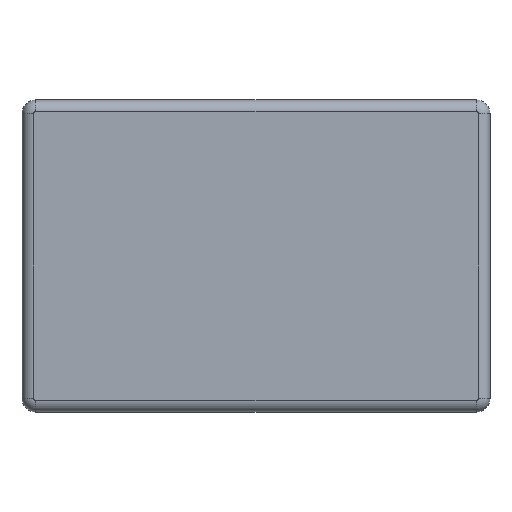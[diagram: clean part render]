
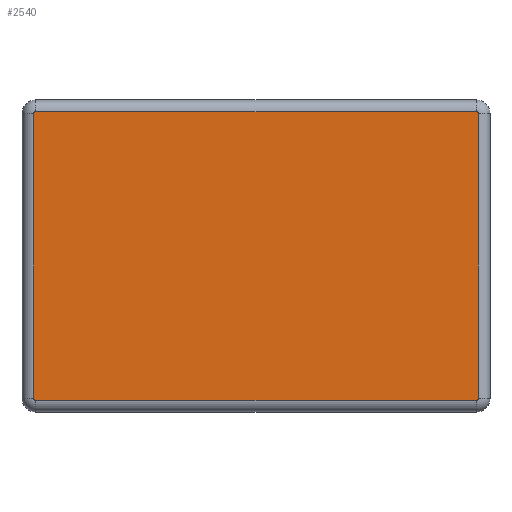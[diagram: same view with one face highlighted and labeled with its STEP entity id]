
A CAD part, top view. The second image highlights one B-rep face of the part: STEP entity #2540.
In plain terms, the highlighted planar face has unit normal (0, 0, 1).
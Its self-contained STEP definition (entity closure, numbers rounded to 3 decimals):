
#70 = EDGE_LOOP ( 'NONE', ( #3714, #448, #4001, #483, #1193, #3475, #2328, #2454 ) ) ;
#111 = EDGE_CURVE ( 'NONE', #2893, #237, #3126, .T. ) ;
#121 = VERTEX_POINT ( 'NONE', #1694 ) ;
#148 = CARTESIAN_POINT ( 'NONE',  ( 57., -36.5, 0. ) ) ;
#166 = DIRECTION ( 'NONE',  ( 0., 0., 1. ) ) ;
#237 = VERTEX_POINT ( 'NONE', #2698 ) ;
#318 = LINE ( 'NONE', #2936, #1612 ) ;
#427 = DIRECTION ( 'NONE',  ( -1., 0., 0. ) ) ;
#448 = ORIENTED_EDGE ( 'NONE', *, *, #2424, .T. ) ;
#483 = ORIENTED_EDGE ( 'NONE', *, *, #2389, .T. ) ;
#629 = DIRECTION ( 'NONE',  ( 0., 0., -1. ) ) ;
#770 = EDGE_CURVE ( 'NONE', #1963, #2396, #3903, .T. ) ;
#836 = LINE ( 'NONE', #1818, #2848 ) ;
#944 = DIRECTION ( 'NONE',  ( 0., 0., -1. ) ) ;
#987 = CARTESIAN_POINT ( 'NONE',  ( -56.5, 37., 0. ) ) ;
#1177 = AXIS2_PLACEMENT_3D ( 'NONE', #1934, #629, #4238 ) ;
#1193 = ORIENTED_EDGE ( 'NONE', *, *, #1600, .F. ) ;
#1293 = DIRECTION ( 'NONE',  ( 0., 0., -1. ) ) ;
#1338 = VECTOR ( 'NONE', #3991, 1000. ) ;
#1375 = CARTESIAN_POINT ( 'NONE',  ( 56.5, -37., 0. ) ) ;
#1539 = FACE_OUTER_BOUND ( 'NONE', #70, .T. ) ;
#1565 = CARTESIAN_POINT ( 'NONE',  ( 56.5, -36.5, 0. ) ) ;
#1600 = EDGE_CURVE ( 'NONE', #121, #2584, #2305, .T. ) ;
#1612 = VECTOR ( 'NONE', #2251, 1000. ) ;
#1673 = CARTESIAN_POINT ( 'NONE',  ( 56.5, 36.5, 0. ) ) ;
#1694 = CARTESIAN_POINT ( 'NONE',  ( 56.5, 37., 0. ) ) ;
#1779 = LINE ( 'NONE', #3367, #2778 ) ;
#1818 = CARTESIAN_POINT ( 'NONE',  ( -57., 36.5, 0. ) ) ;
#1824 = AXIS2_PLACEMENT_3D ( 'NONE', #1937, #1293, #2599 ) ;
#1934 = CARTESIAN_POINT ( 'NONE',  ( -56.5, 36.5, 0. ) ) ;
#1937 = CARTESIAN_POINT ( 'NONE',  ( -56.5, -36.5, 0. ) ) ;
#1963 = VERTEX_POINT ( 'NONE', #4070 ) ;
#2091 = EDGE_CURVE ( 'NONE', #121, #2396, #1779, .T. ) ;
#2126 = VERTEX_POINT ( 'NONE', #148 ) ;
#2194 = CARTESIAN_POINT ( 'NONE',  ( -56.5, -37., 0. ) ) ;
#2251 = DIRECTION ( 'NONE',  ( 0., 1., 0. ) ) ;
#2252 = EDGE_CURVE ( 'NONE', #1963, #237, #836, .T. ) ;
#2305 = CIRCLE ( 'NONE', #4077, 0.5 ) ;
#2328 = ORIENTED_EDGE ( 'NONE', *, *, #770, .F. ) ;
#2389 = EDGE_CURVE ( 'NONE', #2126, #2584, #318, .T. ) ;
#2396 = VERTEX_POINT ( 'NONE', #987 ) ;
#2424 = EDGE_CURVE ( 'NONE', #2893, #3407, #4059, .T. ) ;
#2454 = ORIENTED_EDGE ( 'NONE', *, *, #2252, .T. ) ;
#2464 = CARTESIAN_POINT ( 'NONE',  ( -56.5, 36.5, 0. ) ) ;
#2483 = CARTESIAN_POINT ( 'NONE',  ( 57., 36.5, 0. ) ) ;
#2540 = ADVANCED_FACE ( 'NONE', ( #1539 ), #4081, .T. ) ;
#2584 = VERTEX_POINT ( 'NONE', #2483 ) ;
#2599 = DIRECTION ( 'NONE',  ( 0., -1., 0. ) ) ;
#2693 = CIRCLE ( 'NONE', #3651, 0.5 ) ;
#2698 = CARTESIAN_POINT ( 'NONE',  ( -57., -36.5, 0. ) ) ;
#2778 = VECTOR ( 'NONE', #427, 1000. ) ;
#2848 = VECTOR ( 'NONE', #3814, 1000. ) ;
#2893 = VERTEX_POINT ( 'NONE', #2194 ) ;
#2936 = CARTESIAN_POINT ( 'NONE',  ( 57., 36.5, 0. ) ) ;
#3005 = DIRECTION ( 'NONE',  ( 0., 0., -1. ) ) ;
#3126 = CIRCLE ( 'NONE', #1824, 0.5 ) ;
#3367 = CARTESIAN_POINT ( 'NONE',  ( -56.5, 37., 0. ) ) ;
#3407 = VERTEX_POINT ( 'NONE', #1375 ) ;
#3475 = ORIENTED_EDGE ( 'NONE', *, *, #2091, .T. ) ;
#3486 = DIRECTION ( 'NONE',  ( 0., -1., 0. ) ) ;
#3642 = DIRECTION ( 'NONE',  ( 0., -1., 0. ) ) ;
#3651 = AXIS2_PLACEMENT_3D ( 'NONE', #1565, #944, #3827 ) ;
#3677 = CARTESIAN_POINT ( 'NONE',  ( -56.5, -37., 0. ) ) ;
#3714 = ORIENTED_EDGE ( 'NONE', *, *, #111, .F. ) ;
#3814 = DIRECTION ( 'NONE',  ( 0., -1., 0. ) ) ;
#3827 = DIRECTION ( 'NONE',  ( 0., -1., 0. ) ) ;
#3903 = CIRCLE ( 'NONE', #1177, 0.5 ) ;
#3942 = EDGE_CURVE ( 'NONE', #2126, #3407, #2693, .T. ) ;
#3991 = DIRECTION ( 'NONE',  ( 1., 0., 0. ) ) ;
#4001 = ORIENTED_EDGE ( 'NONE', *, *, #3942, .F. ) ;
#4059 = LINE ( 'NONE', #3677, #1338 ) ;
#4070 = CARTESIAN_POINT ( 'NONE',  ( -57., 36.5, 0. ) ) ;
#4077 = AXIS2_PLACEMENT_3D ( 'NONE', #1673, #3005, #3642 ) ;
#4081 = PLANE ( 'NONE',  #4168 ) ;
#4168 = AXIS2_PLACEMENT_3D ( 'NONE', #2464, #166, #3486 ) ;
#4238 = DIRECTION ( 'NONE',  ( 0., -1., 0. ) ) ;
